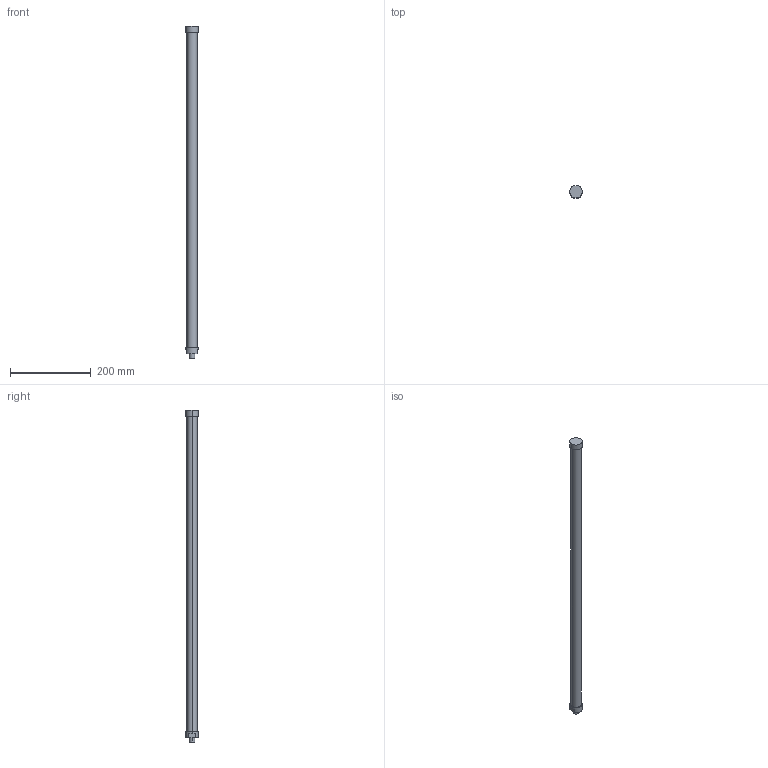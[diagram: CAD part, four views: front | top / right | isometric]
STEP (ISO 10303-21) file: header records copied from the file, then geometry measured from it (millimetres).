
FILE_DESCRIPTION(('STEP AP214'),'1');
FILE_NAME('C:/Users/Autocad/Desktop/L824-C600S1-FN.stp','2014-02-10T11:03:46',(' '),(' '),'Spatial InterOp 3D',' ',' ');
FILE_SCHEMA(('automotive_design'));
Length unit declared in the file: metre
Products named in the file (2): 1; 2
Bounding box: 31 x 31 x 824 mm (x, y, z)
Volume: 408059.2 mm3; surface area: 67542.1 mm2
Topology: 1 solids, 4 shells, 23 faces, 54 edges, 40 vertices
Faces by surface type: cylinder 12, plane 11
Entity records: 916 total; most frequent: DIRECTION 136, CARTESIAN_POINT 119, ORIENTED_EDGE 96, AXIS2_PLACEMENT_3D 57, EDGE_CURVE 54, VERTEX_POINT 40, CIRCLE 32, EDGE_LOOP 28
